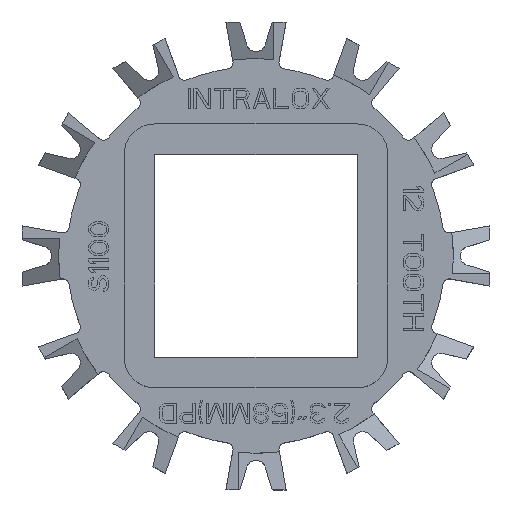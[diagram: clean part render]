
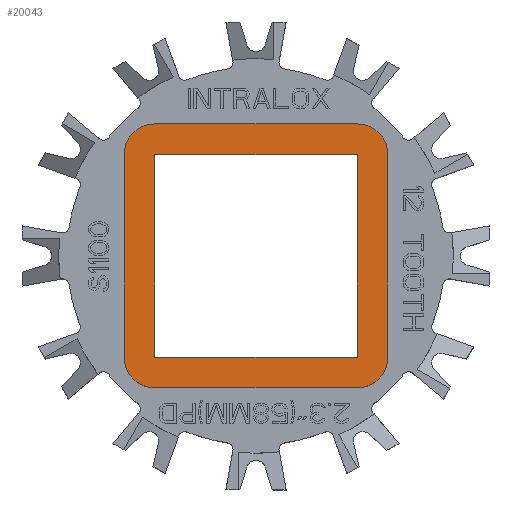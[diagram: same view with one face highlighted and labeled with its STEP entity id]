
A CAD part, top view. The second image highlights one B-rep face of the part: STEP entity #20043.
In plain terms, the highlighted planar face has unit normal (0, 0, 1).
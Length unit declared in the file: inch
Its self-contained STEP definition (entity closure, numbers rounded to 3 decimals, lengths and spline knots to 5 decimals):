
#5689=CARTESIAN_POINT('',(-0.5,0.5,0.365));
#5690=DIRECTION('',(0.,0.,1.));
#5691=DIRECTION('',(0.,1.,0.));
#5692=AXIS2_PLACEMENT_3D('',#5689,#5690,#5691);
#5694=DIRECTION('',(-1.,0.,0.));
#5695=VECTOR('',#5694,1.);
#5696=CARTESIAN_POINT('',(0.5,0.65,0.365));
#5697=LINE('',#5696,#5695);
#5698=CARTESIAN_POINT('',(0.5,0.5,0.365));
#5699=DIRECTION('',(0.,0.,1.));
#5700=DIRECTION('',(1.,0.,0.));
#5701=AXIS2_PLACEMENT_3D('',#5698,#5699,#5700);
#5703=DIRECTION('',(0.,1.,0.));
#5704=VECTOR('',#5703,1.);
#5705=CARTESIAN_POINT('',(0.65,-0.5,0.365));
#5706=LINE('',#5705,#5704);
#5707=CARTESIAN_POINT('',(0.5,-0.5,0.365));
#5708=DIRECTION('',(0.,0.,1.));
#5709=DIRECTION('',(0.,-1.,0.));
#5710=AXIS2_PLACEMENT_3D('',#5707,#5708,#5709);
#5712=DIRECTION('',(1.,0.,0.));
#5713=VECTOR('',#5712,1.);
#5714=CARTESIAN_POINT('',(-0.5,-0.65,0.365));
#5715=LINE('',#5714,#5713);
#5716=CARTESIAN_POINT('',(-0.5,-0.5,0.365));
#5717=DIRECTION('',(0.,0.,1.));
#5718=DIRECTION('',(-1.,0.,0.));
#5719=AXIS2_PLACEMENT_3D('',#5716,#5717,#5718);
#5721=DIRECTION('',(0.,-1.,0.));
#5722=VECTOR('',#5721,1.);
#5723=CARTESIAN_POINT('',(-0.65,0.5,0.365));
#5724=LINE('',#5723,#5722);
#5725=DIRECTION('',(1.,0.,0.));
#5726=VECTOR('',#5725,1.);
#5727=CARTESIAN_POINT('',(-0.5,-0.5,0.365));
#5728=LINE('',#5727,#5726);
#5729=DIRECTION('',(0.,1.,0.));
#5730=VECTOR('',#5729,1.);
#5731=CARTESIAN_POINT('',(0.5,-0.5,0.365));
#5732=LINE('',#5731,#5730);
#5733=DIRECTION('',(-1.,0.,0.));
#5734=VECTOR('',#5733,1.);
#5735=CARTESIAN_POINT('',(0.5,0.5,0.365));
#5736=LINE('',#5735,#5734);
#5737=DIRECTION('',(0.,-1.,0.));
#5738=VECTOR('',#5737,1.);
#5739=CARTESIAN_POINT('',(-0.5,0.5,0.365));
#5740=LINE('',#5739,#5738);
#11981=CARTESIAN_POINT('',(-0.5,-0.5,0.365));
#11983=VERTEX_POINT('',#11981);
#11985=CARTESIAN_POINT('',(0.5,-0.5,0.365));
#11987=VERTEX_POINT('',#11985);
#11989=CARTESIAN_POINT('',(0.5,0.5,0.365));
#11991=VERTEX_POINT('',#11989);
#11993=CARTESIAN_POINT('',(-0.5,0.5,0.365));
#11995=VERTEX_POINT('',#11993);
#12009=CARTESIAN_POINT('',(-0.5,0.65,0.365));
#12010=CARTESIAN_POINT('',(-0.65,0.5,0.365));
#12011=VERTEX_POINT('',#12009);
#12012=VERTEX_POINT('',#12010);
#12013=CARTESIAN_POINT('',(-0.65,-0.5,0.365));
#12014=VERTEX_POINT('',#12013);
#12015=CARTESIAN_POINT('',(-0.5,-0.65,0.365));
#12016=VERTEX_POINT('',#12015);
#12017=CARTESIAN_POINT('',(0.5,-0.65,0.365));
#12018=VERTEX_POINT('',#12017);
#12019=CARTESIAN_POINT('',(0.65,-0.5,0.365));
#12020=VERTEX_POINT('',#12019);
#12021=CARTESIAN_POINT('',(0.65,0.5,0.365));
#12022=VERTEX_POINT('',#12021);
#12023=CARTESIAN_POINT('',(0.5,0.65,0.365));
#12024=VERTEX_POINT('',#12023);
#20012=CARTESIAN_POINT('',(0.,0.,0.365));
#20013=DIRECTION('',(0.,0.,1.));
#20014=DIRECTION('',(1.,0.,0.));
#20015=AXIS2_PLACEMENT_3D('',#20012,#20013,#20014);
#20016=PLANE('',#20015);
#20018=ORIENTED_EDGE('',*,*,#20017,.F.);
#20020=ORIENTED_EDGE('',*,*,#20019,.F.);
#20022=ORIENTED_EDGE('',*,*,#20021,.F.);
#20024=ORIENTED_EDGE('',*,*,#20023,.F.);
#20026=ORIENTED_EDGE('',*,*,#20025,.F.);
#20028=ORIENTED_EDGE('',*,*,#20027,.F.);
#20030=ORIENTED_EDGE('',*,*,#20029,.F.);
#20032=ORIENTED_EDGE('',*,*,#20031,.F.);
#20033=EDGE_LOOP('',(#20018,#20020,#20022,#20024,#20026,#20028,#20030,#20032));
#20034=FACE_OUTER_BOUND('',#20033,.F.);
#20035=ORIENTED_EDGE('',*,*,#19993,.T.);
#20037=ORIENTED_EDGE('',*,*,#20036,.T.);
#20039=ORIENTED_EDGE('',*,*,#20038,.T.);
#20040=ORIENTED_EDGE('',*,*,#20004,.T.);
#20041=EDGE_LOOP('',(#20035,#20037,#20039,#20040));
#20042=FACE_BOUND('',#20041,.F.);
#20043=ADVANCED_FACE('',(#20034,#20042),#20016,.T.);
#5693=CIRCLE('',#5692,0.15);
#5702=CIRCLE('',#5701,0.15);
#5711=CIRCLE('',#5710,0.15);
#5720=CIRCLE('',#5719,0.15);
#19993=EDGE_CURVE('',#11983,#11987,#5728,.T.);
#20004=EDGE_CURVE('',#11995,#11983,#5740,.T.);
#20017=EDGE_CURVE('',#12011,#12012,#5693,.T.);
#20019=EDGE_CURVE('',#12024,#12011,#5697,.T.);
#20021=EDGE_CURVE('',#12022,#12024,#5702,.T.);
#20023=EDGE_CURVE('',#12020,#12022,#5706,.T.);
#20025=EDGE_CURVE('',#12018,#12020,#5711,.T.);
#20027=EDGE_CURVE('',#12016,#12018,#5715,.T.);
#20029=EDGE_CURVE('',#12014,#12016,#5720,.T.);
#20031=EDGE_CURVE('',#12012,#12014,#5724,.T.);
#20036=EDGE_CURVE('',#11987,#11991,#5732,.T.);
#20038=EDGE_CURVE('',#11991,#11995,#5736,.T.);
